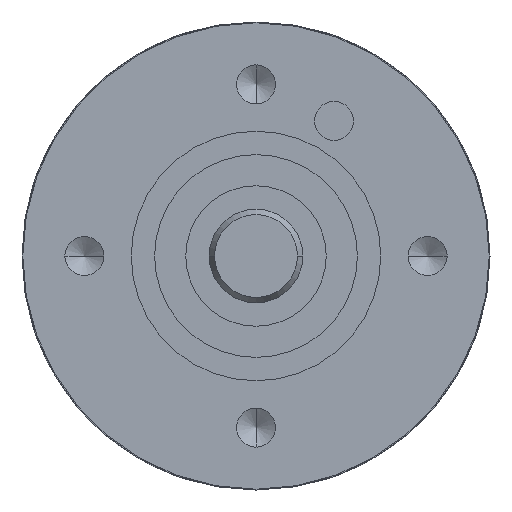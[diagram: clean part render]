
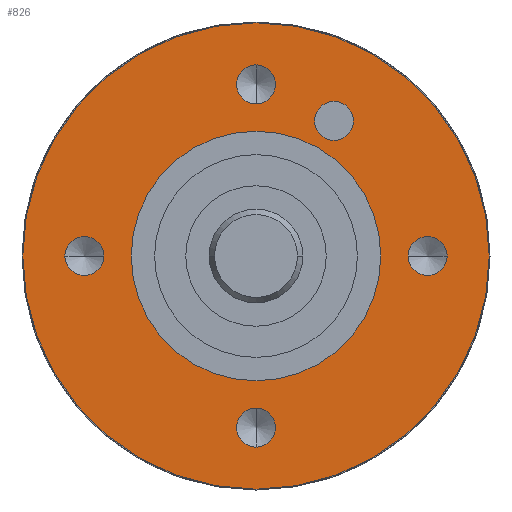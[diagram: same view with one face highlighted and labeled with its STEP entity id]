
A CAD part, left-side view. The second image highlights one B-rep face of the part: STEP entity #826.
In plain terms, the highlighted planar face has unit normal (-1, 0, 0).
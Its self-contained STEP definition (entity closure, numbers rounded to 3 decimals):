
#1=CARTESIAN_POINT('',(0.,0.,0.));
#2=DIRECTION('',(-1.,0.,0.));
#3=DIRECTION('',(0.,1.,0.));
#4=AXIS2_PLACEMENT_3D('',#1,#2,#3);
#10=CARTESIAN_POINT('',(0.,0.,0.));
#11=DIRECTION('',(1.,0.,0.));
#12=DIRECTION('',(0.,1.,0.));
#13=AXIS2_PLACEMENT_3D('',#10,#11,#12);
#19=CARTESIAN_POINT('',(0.,0.,0.));
#20=DIRECTION('',(-1.,0.,0.));
#21=DIRECTION('',(0.,1.,0.));
#22=AXIS2_PLACEMENT_3D('',#19,#20,#21);
#24=CARTESIAN_POINT('',(0.,0.,0.));
#25=DIRECTION('',(1.,0.,0.));
#26=DIRECTION('',(0.,1.,0.));
#27=AXIS2_PLACEMENT_3D('',#24,#25,#26);
#29=CARTESIAN_POINT('',(0.,-11.,0.));
#30=DIRECTION('',(-1.,0.,0.));
#31=DIRECTION('',(0.,1.,0.));
#32=AXIS2_PLACEMENT_3D('',#29,#30,#31);
#34=CARTESIAN_POINT('',(0.,-11.,0.));
#35=DIRECTION('',(-1.,0.,0.));
#36=DIRECTION('',(0.,-1.,0.));
#37=AXIS2_PLACEMENT_3D('',#34,#35,#36);
#39=CARTESIAN_POINT('',(0.,0.,-11.));
#40=DIRECTION('',(-1.,0.,0.));
#41=DIRECTION('',(0.,0.,1.));
#42=AXIS2_PLACEMENT_3D('',#39,#40,#41);
#44=CARTESIAN_POINT('',(0.,0.,-11.));
#45=DIRECTION('',(-1.,0.,0.));
#46=DIRECTION('',(0.,0.,-1.));
#47=AXIS2_PLACEMENT_3D('',#44,#45,#46);
#49=CARTESIAN_POINT('',(0.,11.,0.));
#50=DIRECTION('',(-1.,0.,0.));
#51=DIRECTION('',(0.,-1.,0.));
#52=AXIS2_PLACEMENT_3D('',#49,#50,#51);
#54=CARTESIAN_POINT('',(0.,11.,0.));
#55=DIRECTION('',(-1.,0.,0.));
#56=DIRECTION('',(0.,1.,0.));
#57=AXIS2_PLACEMENT_3D('',#54,#55,#56);
#59=CARTESIAN_POINT('',(0.,0.,11.));
#60=DIRECTION('',(-1.,0.,0.));
#61=DIRECTION('',(0.,0.,-1.));
#62=AXIS2_PLACEMENT_3D('',#59,#60,#61);
#64=CARTESIAN_POINT('',(0.,0.,11.));
#65=DIRECTION('',(-1.,0.,0.));
#66=DIRECTION('',(0.,0.,1.));
#67=AXIS2_PLACEMENT_3D('',#64,#65,#66);
#69=CARTESIAN_POINT('',(0.,-5.,8.66));
#70=DIRECTION('',(1.,0.,0.));
#71=DIRECTION('',(0.,1.,0.));
#72=AXIS2_PLACEMENT_3D('',#69,#70,#71);
#74=CARTESIAN_POINT('',(0.,-5.,8.66));
#75=DIRECTION('',(1.,0.,0.));
#76=DIRECTION('',(0.,-1.,0.));
#77=AXIS2_PLACEMENT_3D('',#74,#75,#76);
#587=CARTESIAN_POINT('',(0.,8.,0.));
#589=VERTEX_POINT('',#587);
#604=CARTESIAN_POINT('',(0.,14.95,0.));
#606=VERTEX_POINT('',#604);
#607=CARTESIAN_POINT('',(0.,-8.,0.));
#609=VERTEX_POINT('',#607);
#624=CARTESIAN_POINT('',(0.,-14.95,0.));
#626=VERTEX_POINT('',#624);
#633=CARTESIAN_POINT('',(0.,-9.75,0.));
#634=CARTESIAN_POINT('',(0.,-12.25,0.));
#635=VERTEX_POINT('',#633);
#636=VERTEX_POINT('',#634);
#643=CARTESIAN_POINT('',(0.,0.,-9.75));
#644=CARTESIAN_POINT('',(0.,0.,-12.25));
#645=VERTEX_POINT('',#643);
#646=VERTEX_POINT('',#644);
#653=CARTESIAN_POINT('',(0.,9.75,0.));
#654=CARTESIAN_POINT('',(0.,12.25,0.));
#655=VERTEX_POINT('',#653);
#656=VERTEX_POINT('',#654);
#663=CARTESIAN_POINT('',(0.,0.,9.75));
#664=CARTESIAN_POINT('',(0.,0.,12.25));
#665=VERTEX_POINT('',#663);
#666=VERTEX_POINT('',#664);
#695=CARTESIAN_POINT('',(0.,-3.75,8.66));
#696=CARTESIAN_POINT('',(0.,-6.25,8.66));
#697=VERTEX_POINT('',#695);
#698=VERTEX_POINT('',#696);
#781=CARTESIAN_POINT('',(0.,0.,0.));
#782=DIRECTION('',(-1.,0.,0.));
#783=DIRECTION('',(0.,1.,0.));
#784=AXIS2_PLACEMENT_3D('',#781,#782,#783);
#785=PLANE('',#784);
#787=ORIENTED_EDGE('',*,*,#786,.F.);
#789=ORIENTED_EDGE('',*,*,#788,.T.);
#790=EDGE_LOOP('',(#787,#789));
#791=FACE_OUTER_BOUND('',#790,.F.);
#792=ORIENTED_EDGE('',*,*,#773,.F.);
#793=ORIENTED_EDGE('',*,*,#762,.T.);
#794=EDGE_LOOP('',(#792,#793));
#795=FACE_BOUND('',#794,.F.);
#797=ORIENTED_EDGE('',*,*,#796,.T.);
#799=ORIENTED_EDGE('',*,*,#798,.T.);
#800=EDGE_LOOP('',(#797,#799));
#801=FACE_BOUND('',#800,.F.);
#803=ORIENTED_EDGE('',*,*,#802,.T.);
#805=ORIENTED_EDGE('',*,*,#804,.T.);
#806=EDGE_LOOP('',(#803,#805));
#807=FACE_BOUND('',#806,.F.);
#809=ORIENTED_EDGE('',*,*,#808,.T.);
#811=ORIENTED_EDGE('',*,*,#810,.T.);
#812=EDGE_LOOP('',(#809,#811));
#813=FACE_BOUND('',#812,.F.);
#815=ORIENTED_EDGE('',*,*,#814,.T.);
#817=ORIENTED_EDGE('',*,*,#816,.T.);
#818=EDGE_LOOP('',(#815,#817));
#819=FACE_BOUND('',#818,.F.);
#821=ORIENTED_EDGE('',*,*,#820,.F.);
#823=ORIENTED_EDGE('',*,*,#822,.F.);
#824=EDGE_LOOP('',(#821,#823));
#825=FACE_BOUND('',#824,.F.);
#5=CIRCLE('',#4,8.);
#14=CIRCLE('',#13,8.);
#23=CIRCLE('',#22,14.95);
#28=CIRCLE('',#27,14.95);
#33=CIRCLE('',#32,1.25);
#38=CIRCLE('',#37,1.25);
#43=CIRCLE('',#42,1.25);
#48=CIRCLE('',#47,1.25);
#53=CIRCLE('',#52,1.25);
#58=CIRCLE('',#57,1.25);
#63=CIRCLE('',#62,1.25);
#68=CIRCLE('',#67,1.25);
#73=CIRCLE('',#72,1.25);
#78=CIRCLE('',#77,1.25);
#762=EDGE_CURVE('',#589,#609,#5,.T.);
#773=EDGE_CURVE('',#589,#609,#14,.T.);
#786=EDGE_CURVE('',#606,#626,#23,.T.);
#788=EDGE_CURVE('',#606,#626,#28,.T.);
#796=EDGE_CURVE('',#635,#636,#33,.T.);
#798=EDGE_CURVE('',#636,#635,#38,.T.);
#802=EDGE_CURVE('',#645,#646,#43,.T.);
#804=EDGE_CURVE('',#646,#645,#48,.T.);
#808=EDGE_CURVE('',#655,#656,#53,.T.);
#810=EDGE_CURVE('',#656,#655,#58,.T.);
#814=EDGE_CURVE('',#665,#666,#63,.T.);
#816=EDGE_CURVE('',#666,#665,#68,.T.);
#820=EDGE_CURVE('',#697,#698,#73,.T.);
#822=EDGE_CURVE('',#698,#697,#78,.T.);
#826=ADVANCED_FACE('',(#791,#795,#801,#807,#813,#819,#825),#785,.T.);
